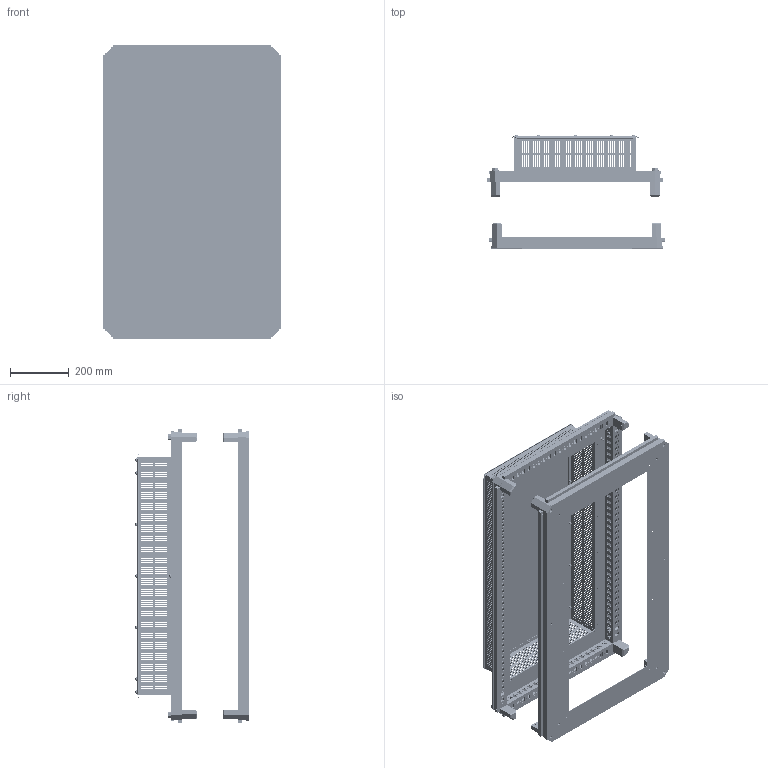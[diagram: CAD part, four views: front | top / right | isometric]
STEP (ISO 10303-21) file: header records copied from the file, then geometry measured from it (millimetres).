
FILE_DESCRIPTION (( 'STEP AP214' ), '1' );
FILE_NAME ('FO-00-KOF-060-100-31 Êðûøà è îñíîâàíèå (ïîä ôëàíåö) 600õ1000 ìì IP31.STEP', '2025-07-23T12:52:54', ( '' ), ( '' ), 'SwSTEP 2.0', 'SolidWorks 2023', '' );
FILE_SCHEMA (( 'AUTOMOTIVE_DESIGN' ));
Length unit declared in the file: millimetre
Products named in the file (3): Крыша 600х1000  IP31; FO-00-KOF-060-100-31 Крыша и основание (под фланец) 600х1000 мм IP31; Основание под фланец 600х1000
Assembly tree (2 placements, depth 2):
  FO-00-KOF-060-100-31 Крыша и основание (под фланец) 600х1000 мм IP31
    Крыша 600х1000  IP31
    Основание под фланец 600х1000
Bounding box: 605.99 x 385.08 x 1000.21 mm (x, y, z)
Volume: 4465995.5 mm3; surface area: 3782854.1 mm2
Topology: 2 solids, 62 shells, 8612 faces, 24472 edges, 16212 vertices
Faces by surface type: plane 5918, cylinder 2178, cone 252, bspline 192, torus 36, sphere 36
Entity records: 289607 total; most frequent: CARTESIAN_POINT 58557, ORIENTED_EDGE 48924, DIRECTION 44676, EDGE_CURVE 24462, LINE 18546, VECTOR 18546, VERTEX_POINT 16212, AXIS2_PLACEMENT_3D 13065
